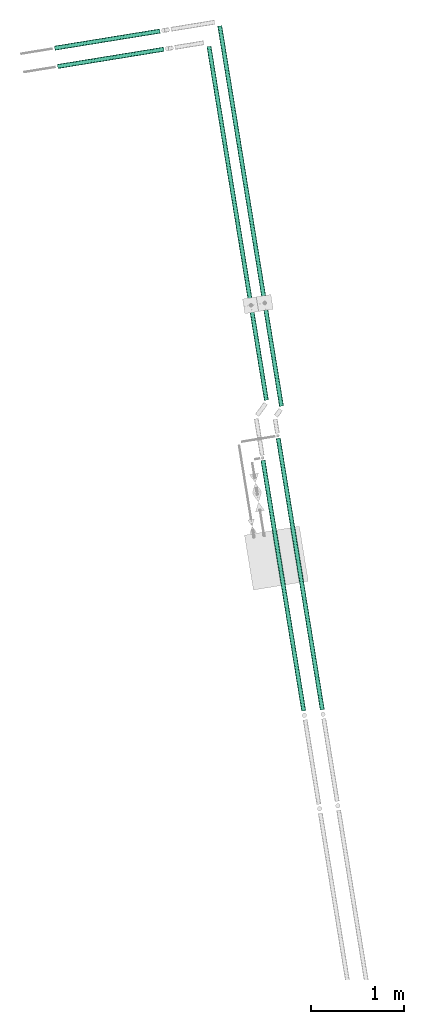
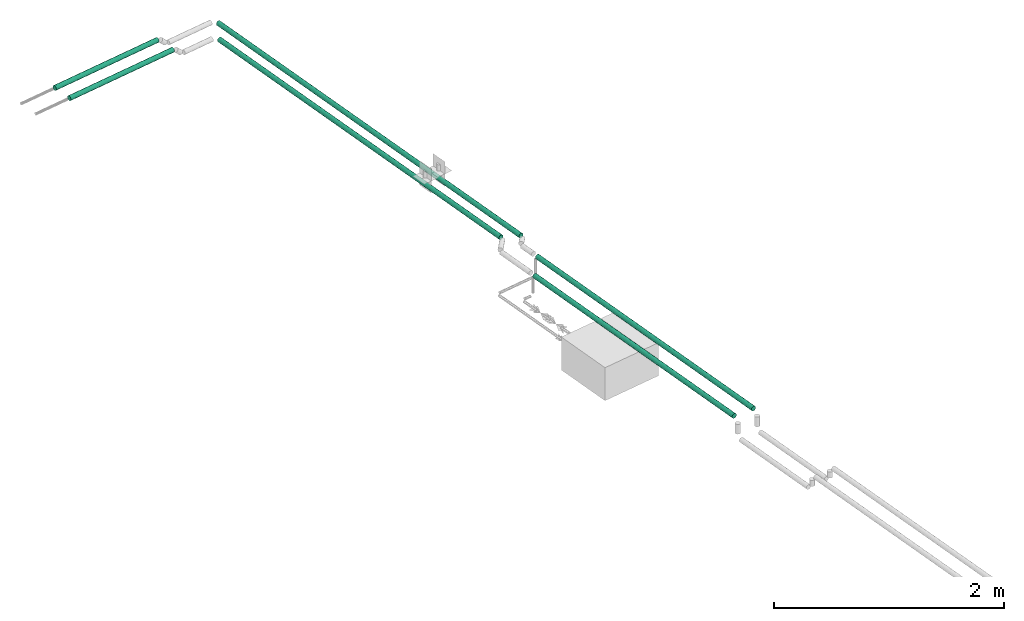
# One storey, part 2 of 10: 6 flow segments.
"""IFC2X3 building model written with IfcOpenShell, lengths in millimetres."""

from ifc_helpers import new_model, entity, si_unit, converted_unit, derived_unit, direction, frame, frame_2d, origin, origin_with_axes, origin_2d_with_axis, place, context, subcontext, project, spatial, circle, extrude, type_object, element, save


model = new_model("IFC2X3")

# Units and contexts
plan_context = context("Plan", 3, precision=1e-05, world=origin_with_axes())
model_context = context("Model", 3, precision=0.01, world=origin(), true_north=direction((6.12323399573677e-17, 1.0)))
body_context = subcontext(model_context, "Body", "Model", "MODEL_VIEW")
ifc_project = project(units=[converted_unit("PLANEANGLEUNIT", "DEGREE", entity("IfcPositiveLengthMeasure", 0.0174532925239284), si_unit("PLANEANGLEUNIT", "RADIAN"), dimensions=[0, 0, 0, 0, 0, 0, 0]), si_unit("AREAUNIT", "SQUARE_METRE"), si_unit("LENGTHUNIT", "METRE", prefix="MILLI"), si_unit("MASSUNIT", "GRAM", prefix="KILO"), si_unit("POWERUNIT", "WATT"), si_unit("PRESSUREUNIT", "PASCAL", prefix="KILO"), si_unit("FORCEUNIT", "NEWTON", prefix="KILO"), si_unit("ELECTRICVOLTAGEUNIT", "VOLT"), si_unit("ELECTRICCURRENTUNIT", "AMPERE"), si_unit("THERMODYNAMICTEMPERATUREUNIT", "DEGREE_CELSIUS"), si_unit("TIMEUNIT", "SECOND"), si_unit("VOLUMEUNIT", "CUBIC_METRE"), derived_unit("LINEARVELOCITYUNIT", [(si_unit("LENGTHUNIT", "METRE"), 1), (si_unit("TIMEUNIT", "SECOND"), -1)]), derived_unit("VOLUMETRICFLOWRATEUNIT", [(si_unit("VOLUMEUNIT", "CUBIC_METRE"), 1), (si_unit("TIMEUNIT", "SECOND"), -1)]), derived_unit("THERMALTRANSMITTANCEUNIT", [(si_unit("POWERUNIT", "WATT"), 1), (si_unit("THERMODYNAMICTEMPERATUREUNIT", "KELVIN"), -1), (si_unit("AREAUNIT", "SQUARE_METRE"), -1)]), derived_unit("SOUNDPRESSUREUNIT", [(si_unit("PRESSUREUNIT", "PASCAL"), 1)])], contexts=[model_context, plan_context])

# Site, building, storey
site_placement = place(None, frame((-0.00071070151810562, 0.00438415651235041, 0.0), z_axis=(0.0, 0.0, 1.0), x_axis=(-0.160236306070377, 0.987078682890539, 0.0)))
site = spatial("IfcSite", under=ifc_project, at=site_placement, Name="Default", CompositionType="ELEMENT")
building_placement = place(site_placement, origin_with_axes())
building = spatial("IfcBuilding", under=site, at=building_placement, CompositionType="ELEMENT")
storey_placement = place(building_placement, frame((0.0, 0.0, 58999.9999999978), z_axis=(0.0, 0.0, 1.0), x_axis=(1.0, 0.0, 0.0)))
storey = spatial("IfcBuildingStorey", under=building, at=storey_placement, Name="Nivå F", CompositionType="ELEMENT", Elevation=58999.9999999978)

# Flow segments
pipe_segment_type = type_object("IfcPipeSegmentType", Name="Pipe Types:Stålrør syrefast AISI 316", PredefinedType="NOTDEFINED")
flow_segment_1_placement = place(storey_placement, origin_with_axes())
element("IfcFlowSegment", 1, at=flow_segment_1_placement, inside=storey, type_object=pipe_segment_type, Name="Pipe Types:Stålrør syrefast AISI 316", ObjectType="Pipe Types:Stålrør syrefast AISI 316", context=body_context, shape_type="SweptSolid", body=[
    extrude(circle(Radius=24.1499996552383, at=origin_2d_with_axis()), frame((781430.343630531, -502924.454093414, 2820.0), z_axis=(1.0, 0.0, 0.0), x_axis=(0.0, -1.0, 0.0)), (0.0, 0.0, 1.0), 3863.37605004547),
])
flow_segment_2_placement = place(storey_placement, origin_with_axes())
element("IfcFlowSegment", 2, at=flow_segment_2_placement, inside=storey, type_object=pipe_segment_type, Name="Pipe Types:Stålrør syrefast AISI 316", ObjectType="Pipe Types:Stålrør syrefast AISI 316", context=body_context, shape_type="SweptSolid", body=[
    extrude(circle(Radius=24.1499996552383, at=origin_2d_with_axis()), frame((781340.343630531, -503074.454093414, 2820.0), z_axis=(1.0, 0.0, 0.0), x_axis=(0.0, -1.0, 0.0)), (0.0, 0.0, 1.0), 4153.37605004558),
])
flow_segment_3_placement = place(storey_placement, origin_with_axes())
element("IfcFlowSegment", 3, at=flow_segment_3_placement, inside=storey, type_object=pipe_segment_type, Name="Pipe Types:Stålrør syrefast AISI 316", ObjectType="Pipe Types:Stålrør syrefast AISI 316", context=body_context, shape_type="SweptSolid", body=[
    extrude(circle(Radius=24.1499996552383, at=frame_2d((6.93034962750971e-11, 0.0), x_axis=(1.0, 0.0))), frame((778058.695694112, -502784.454093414, 2820.0), z_axis=(1.0, 0.0, 0.0), x_axis=(0.0, 1.0, 0.0)), (0.0, 0.0, 1.0), 2737.45789728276),
])
flow_segment_4_placement = place(storey_placement, origin_with_axes())
element("IfcFlowSegment", 4, at=flow_segment_4_placement, inside=storey, type_object=pipe_segment_type, Name="Pipe Types:Stålrør syrefast AISI 316", ObjectType="Pipe Types:Stålrør syrefast AISI 316", context=body_context, shape_type="SweptSolid", body=[
    extrude(circle(Radius=24.1499996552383, at=origin_2d_with_axis()), frame((778038.695694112, -502984.454093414, 2820.0), z_axis=(1.0, 0.0, 0.0), x_axis=(0.0, 1.0, 0.0)), (0.0, 0.0, 1.0), 2966.34456118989),
])
flow_segment_5_placement = place(storey_placement, origin_with_axes())
element("IfcFlowSegment", 5, at=flow_segment_5_placement, inside=storey, type_object=pipe_segment_type, Name="Pipe Types:Stålrør syrefast AISI 316", ObjectType="Pipe Types:Stålrør syrefast AISI 316", context=body_context, shape_type="SweptSolid", body=[
    extrude(circle(Radius=24.1499996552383, at=origin_2d_with_axis()), frame((785342.119680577, -502439.816155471, 2900.0), z_axis=(0.0, 1.0, 0.0), x_axis=(-1.0, 0.0, 0.0)), (0.0, 0.0, 1.0), 1160.33587318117),
])
flow_segment_6_placement = place(storey_placement, origin_with_axes())
element("IfcFlowSegment", 6, at=flow_segment_6_placement, inside=storey, type_object=pipe_segment_type, Name="Pipe Types:Stålrør syrefast AISI 316", ObjectType="Pipe Types:Stålrør syrefast AISI 316", context=body_context, shape_type="SweptSolid", body=[
    extrude(circle(Radius=24.1499996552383, at=origin_2d_with_axis()), frame((785542.119680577, -502429.816155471, 2900.0), z_axis=(0.0, 1.0, 0.0), x_axis=(-1.0, 0.0, 0.0)), (0.0, 0.0, 1.0), 1150.3358731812),
])

save(model, "model.ifc")
